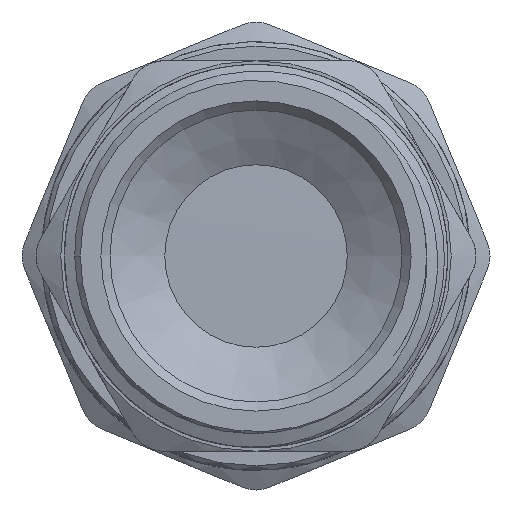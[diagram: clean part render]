
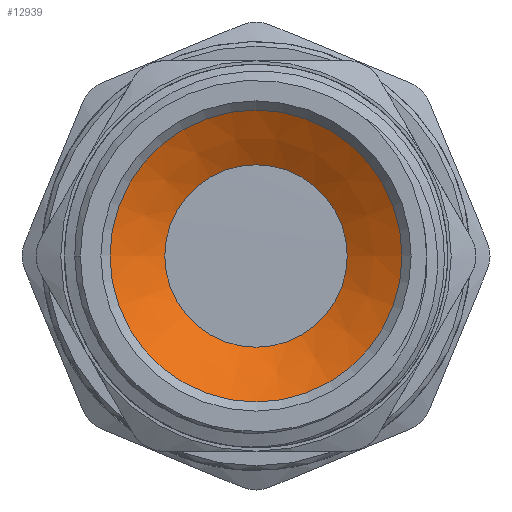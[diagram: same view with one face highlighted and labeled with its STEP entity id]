
A CAD part, left-side view. The second image highlights one B-rep face of the part: STEP entity #12939.
In plain terms, the highlighted conical face has half-angle 59.744 degrees and reference radius 13 mm.
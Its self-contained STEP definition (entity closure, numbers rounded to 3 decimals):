
#809=CIRCLE('',#13415,16.);
#810=CIRCLE('',#13416,16.);
#811=CIRCLE('',#13418,10.);
#812=CIRCLE('',#13419,10.);
#1004=CONICAL_SURFACE('',#13417,13.,1.043);
#1647=FACE_OUTER_BOUND('',#2390,.T.);
#2390=EDGE_LOOP('',(#11798,#11799,#11800,#11801,#11802,#11803));
#4080=LINE('',#31563,#4870);
#4870=VECTOR('',#15205,13.);
#6093=VERTEX_POINT('',#31556);
#6094=VERTEX_POINT('',#31558);
#6095=VERTEX_POINT('',#31562);
#6096=VERTEX_POINT('',#31564);
#8026=EDGE_CURVE('',#6094,#6093,#809,.T.);
#8027=EDGE_CURVE('',#6093,#6094,#810,.T.);
#8028=EDGE_CURVE('',#6093,#6095,#4080,.T.);
#8029=EDGE_CURVE('',#6096,#6095,#811,.T.);
#8030=EDGE_CURVE('',#6095,#6096,#812,.T.);
#11798=ORIENTED_EDGE('',*,*,#8026,.T.);
#11799=ORIENTED_EDGE('',*,*,#8028,.T.);
#11800=ORIENTED_EDGE('',*,*,#8029,.F.);
#11801=ORIENTED_EDGE('',*,*,#8030,.F.);
#11802=ORIENTED_EDGE('',*,*,#8028,.F.);
#11803=ORIENTED_EDGE('',*,*,#8027,.T.);
#12939=ADVANCED_FACE('',(#1647),#1004,.F.);
#13415=AXIS2_PLACEMENT_3D('',#31559,#15199,#15200);
#13416=AXIS2_PLACEMENT_3D('',#31560,#15201,#15202);
#13417=AXIS2_PLACEMENT_3D('',#31561,#15203,#15204);
#13418=AXIS2_PLACEMENT_3D('',#31565,#15206,#15207);
#13419=AXIS2_PLACEMENT_3D('',#31566,#15208,#15209);
#15199=DIRECTION('center_axis',(-1.,0.,0.));
#15200=DIRECTION('ref_axis',(0.,0.,1.));
#15201=DIRECTION('center_axis',(-1.,0.,0.));
#15202=DIRECTION('ref_axis',(0.,0.,1.));
#15203=DIRECTION('center_axis',(-1.,0.,0.));
#15204=DIRECTION('ref_axis',(0.,-1.,0.));
#15205=DIRECTION('',(0.504,-0.864,0.));
#15206=DIRECTION('center_axis',(-1.,0.,0.));
#15207=DIRECTION('ref_axis',(0.,0.,1.));
#15208=DIRECTION('center_axis',(-1.,0.,0.));
#15209=DIRECTION('ref_axis',(0.,0.,1.));
#31556=CARTESIAN_POINT('',(-4.25,16.,0.));
#31558=CARTESIAN_POINT('',(-4.25,-16.,0.));
#31559=CARTESIAN_POINT('Origin',(-4.25,0.,0.));
#31560=CARTESIAN_POINT('Origin',(-4.25,0.,0.));
#31561=CARTESIAN_POINT('Origin',(-2.5,0.,0.));
#31562=CARTESIAN_POINT('',(-0.75,10.,0.));
#31563=CARTESIAN_POINT('',(-2.5,13.,0.));
#31564=CARTESIAN_POINT('',(-0.75,-10.,0.));
#31565=CARTESIAN_POINT('Origin',(-0.75,0.,0.));
#31566=CARTESIAN_POINT('Origin',(-0.75,0.,0.));
